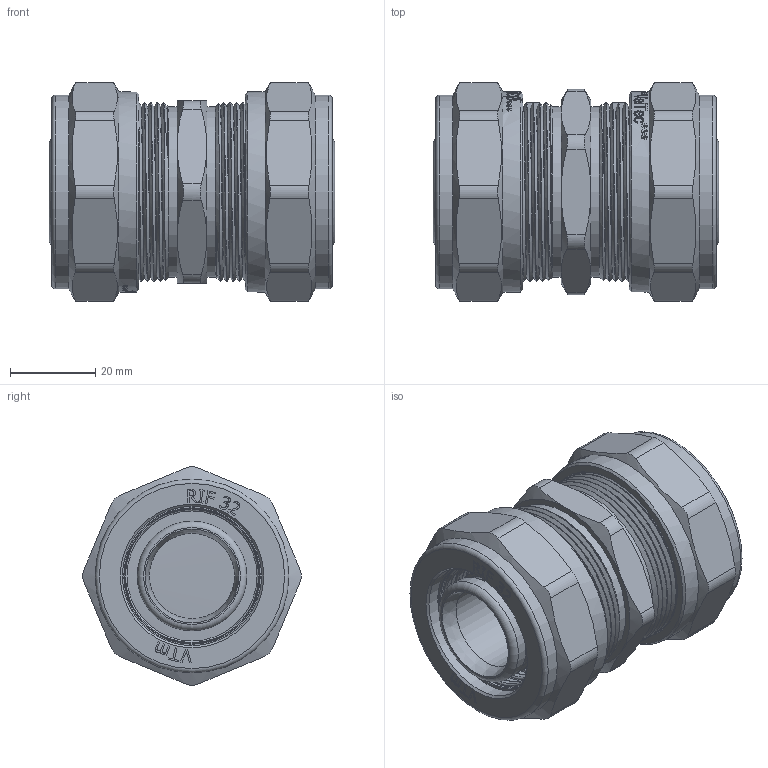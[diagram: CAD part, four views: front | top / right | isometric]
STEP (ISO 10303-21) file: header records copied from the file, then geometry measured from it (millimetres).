
FILE_DESCRIPTION(/* description */ (''),/* implementation_level */ '2;1');
FILE_NAME(/* name */ 'E:\Артём\00000\Работа удаленка\Обжимные фитинги\VTm.303.N.003232.stp',/* time_stamp */ '2020-06-10T15:52:28+03:00',/* author */ ('BeN_GaN'),/* organization */ (''),/* preprocessor_version */ 'ST-DEVELOPER v18',/* originating_system */ 'Autodesk Inventor 2020',/* authorisation */ '');
FILE_SCHEMA (('AUTOMOTIVE_DESIGN { 1 0 10303 214 3 1 1 }'));
Length unit declared in the file: millimetre
Products named in the file (1): VTm.303.N.003232
Bounding box: 67 x 51.3 x 51.3 mm (x, y, z)
Volume: 73906.3 mm3; surface area: 37062 mm2
Topology: 1 solids, 1 shells, 1331 faces, 3782 edges, 2555 vertices
Faces by surface type: bspline 739, plane 336, cylinder 168, torus 48, cone 40
Full cylindrical faces by diameter (mm): 20 x1, 23.4 x4, 25.75 x10, 30.538 x8, 31.683 x10, 32.2 x2, 32.7 x2, 35.5 x2, 40 x2, 40.4 x8, 40.5 x2, 42 x10, 45.5 x2, 47 x1
Entity records: 57545 total; most frequent: CARTESIAN_POINT 27784, ORIENTED_EDGE 7564, DIRECTION 3856, EDGE_CURVE 3782, VERTEX_POINT 2555, B_SPLINE_CURVE_WITH_KNOTS 1626, LINE 1530, VECTOR 1530
